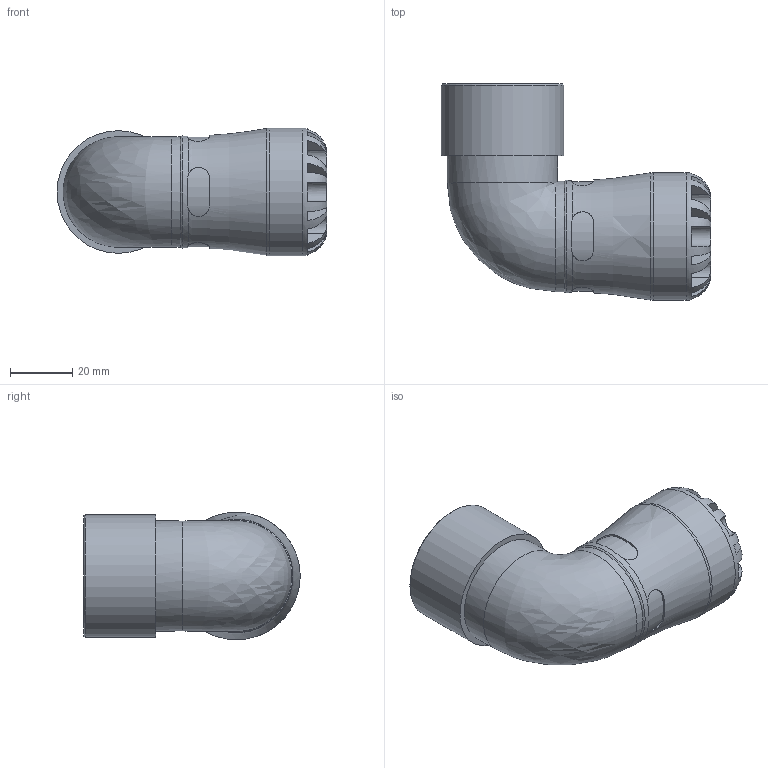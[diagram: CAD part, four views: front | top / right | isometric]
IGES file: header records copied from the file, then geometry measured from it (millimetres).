
Global section: file name: 101500020010_191500020010.ipt; native system: Autodesk Inventor 2015; preprocessor: unknown; author: KIM; date: 20170730.115211; units: millimetre
Bounding box: 86.69 x 69.5 x 41 mm (x, y, z)
Volume: 64892.4 mm3; surface area: 24294.1 mm2
Topology: 1 solids, 1 shells, 106 faces, 282 edges, 179 vertices
Faces by surface type: plane 61, revolution 26, cylinder 17, cone 1, bspline 1
Full cylindrical faces by diameter (mm): 35.44 x2, 36.08 x1, 39.378 x1, 41 x1
